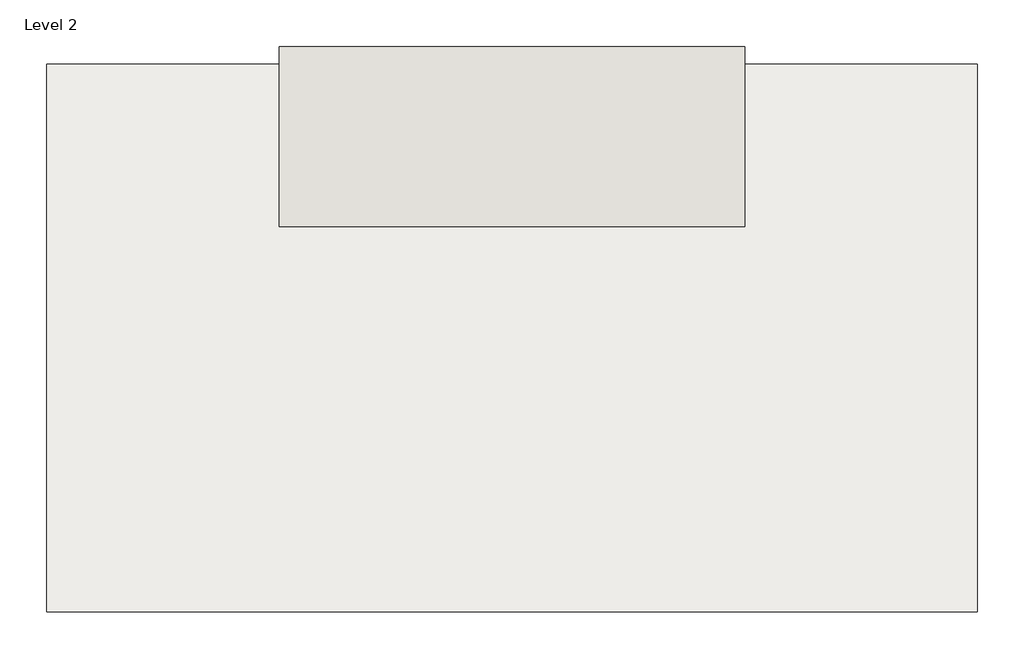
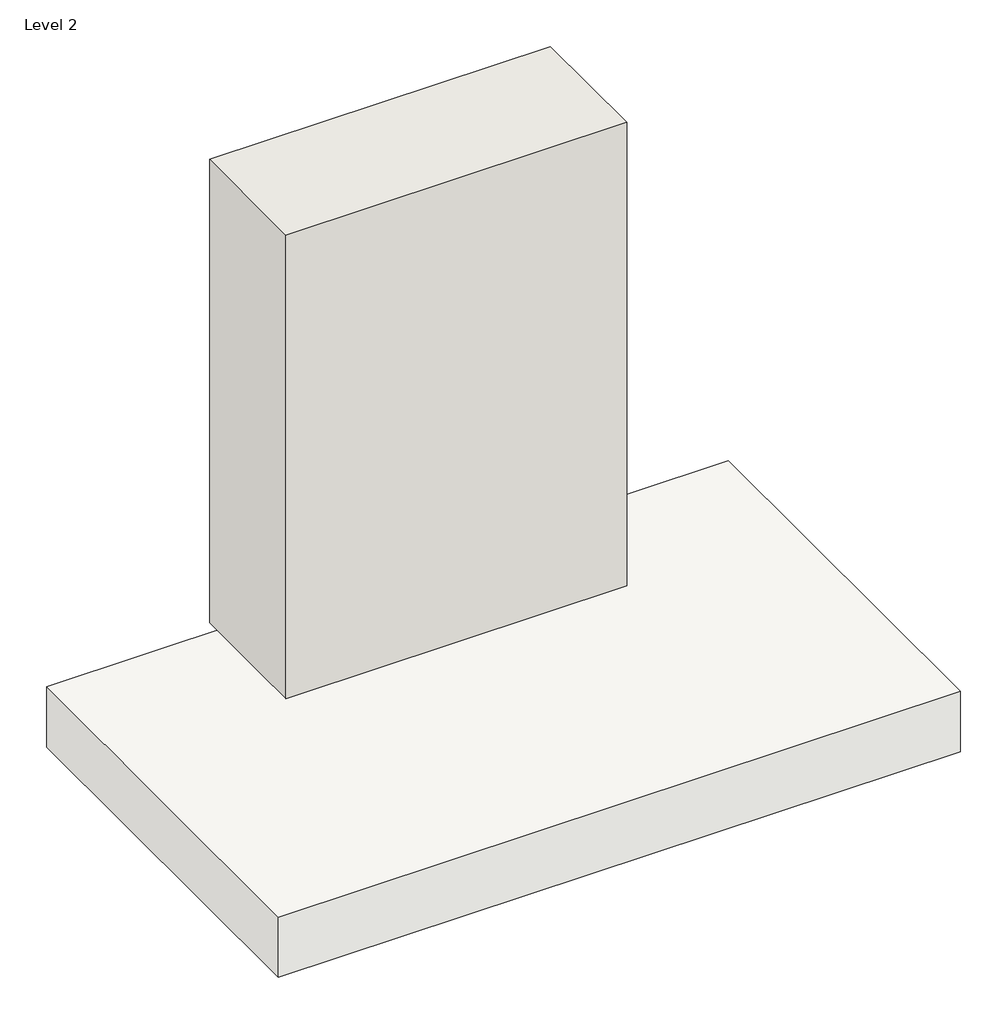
# One storey: 1 slab, 1 wall.
"""IFC4 building model written with IfcOpenShell, lengths in millimetres."""

import ifcopenshell
import ifcopenshell.guid

model = None  # the IFC model being written
_history = None  # IfcOwnerHistory: only IFC2X3 demands one
_inside = {}  # id of a spatial element -> (the spatial element, [elements in it])
_under = {}  # id of a project, library or spatial element -> (it, [spatial elements below it])
_declared = {}  # id of a project -> (the project, [libraries it declares])
_typed = {}  # id of a type object -> (the type object, [elements of that type])
_made_of = {}  # id of a material, layer set ... -> (it, [elements and type objects made of it])


def new_model(schema):
    """Start an empty IFC model of exactly this schema.

    Asked for "IFC4X3", IfcOpenShell would pick the latest addendum, in which some entities
    have other attributes; the version numbers below select the first issue.
    IFC2X3 requires an IfcOwnerHistory on every rooted entity: one is made here for all.
    """
    global model, _history
    if schema == "IFC4X3":
        model = ifcopenshell.file(schema_version=(4, 3, 0, 0))
    else:
        model = ifcopenshell.file(schema=schema)
    _inside.clear()
    _under.clear()
    _declared.clear()
    _typed.clear()
    _made_of.clear()
    _history = None
    if model.schema == "IFC2X3":
        org = make("IfcOrganization", Name="unknown")
        user = make(
            "IfcPersonAndOrganization",
            ThePerson=make("IfcPerson", FamilyName="unknown"),
            TheOrganization=org,
        )
        app = make(
            "IfcApplication",
            ApplicationDeveloper=org,
            Version="unknown",
            ApplicationFullName="unknown",
            ApplicationIdentifier="unknown",
        )
        _history = make(
            "IfcOwnerHistory",
            OwningUser=user,
            OwningApplication=app,
            ChangeAction="ADDED",
            CreationDate=0,
        )
    return model


def make(cls, **values):
    """One entity of the class cls with the attributes given. An attribute that is None is left unset."""
    return model.create_entity(
        cls, **{name: value for name, value in values.items() if value is not None}
    )


def rooted(cls, **values):
    """An entity with a GlobalId (a new one), such as an element, a storey or a relation."""
    return make(cls, GlobalId=ifcopenshell.guid.new(), OwnerHistory=_history, **values)


def si_unit(unit_type, name, prefix=None):
    """IfcSIUnit, for example si_unit("LENGTHUNIT", "METRE", prefix="MILLI")."""
    return make("IfcSIUnit", UnitType=unit_type, Prefix=prefix, Name=name)


def assignment(units):
    """IfcUnitAssignment: the units of a project."""
    return None if units is None else make("IfcUnitAssignment", Units=units)


def point(xyz):
    """IfcCartesianPoint."""
    return None if xyz is None else make("IfcCartesianPoint", Coordinates=xyz)


def direction(xyz):
    """IfcDirection."""
    return None if xyz is None else make("IfcDirection", DirectionRatios=xyz)


def frame(location, z_axis=None, x_axis=None):
    """IfcAxis2Placement3D, a coordinate frame: its origin and axes. An axis left out is left unset."""
    return make(
        "IfcAxis2Placement3D",
        Location=point(location),
        Axis=direction(z_axis),
        RefDirection=direction(x_axis),
    )


def origin():
    """The frame at (0, 0, 0) with its axes left unset."""
    return frame((0.0, 0.0, 0.0))


def place(relative_to, where):
    """IfcLocalPlacement: puts the frame where relative to a parent placement (None: the world)."""
    return make(
        "IfcLocalPlacement", PlacementRelTo=relative_to, RelativePlacement=where
    )


def context(
    kind, dimensions, precision=None, world=None, true_north=None, identifier=None
):
    """IfcGeometricRepresentationContext, for example the 3D "Model" context."""
    return make(
        "IfcGeometricRepresentationContext",
        ContextIdentifier=identifier,
        ContextType=kind,
        CoordinateSpaceDimension=dimensions,
        Precision=precision,
        WorldCoordinateSystem=world,
        TrueNorth=true_north,
    )


def project(units=None, contexts=None):
    """IfcProject with its units and contexts."""
    return rooted(
        "IfcProject",
        Name="project",
        RepresentationContexts=contexts,
        UnitsInContext=assignment(units),
    )


def spatial(cls, under=None, at=None, **own):
    """A site, building, storey or space (cls), placed at a placement, below another one or the project."""
    s = rooted(cls, ObjectPlacement=at, **own)
    if under is not None:
        _under.setdefault(under.id(), (under, []))[1].append(s)
    return s


def polyline(points):
    """IfcPolyline through the points."""
    return make("IfcPolyline", Points=[point(p) for p in points])


def outline(outer, holes=None, kind="AREA"):
    """IfcArbitraryClosedProfileDef: a profile drawn as a closed curve; with holes, ...WithVoids."""
    if holes is None:
        return make("IfcArbitraryClosedProfileDef", ProfileType=kind, OuterCurve=outer)
    return make(
        "IfcArbitraryProfileDefWithVoids",
        ProfileType=kind,
        OuterCurve=outer,
        InnerCurves=holes,
    )


def extrude(swept, where, along, depth):
    """IfcExtrudedAreaSolid: the profile swept, set in the frame where, extruded along a direction by depth."""
    return make(
        "IfcExtrudedAreaSolid",
        SweptArea=swept,
        Position=where,
        ExtrudedDirection=direction(along),
        Depth=depth,
    )


def shape(context_of_items, identifier, shape_type, items):
    """IfcShapeRepresentation: the items that make up one representation, for example the "Body"."""
    return make(
        "IfcShapeRepresentation",
        ContextOfItems=context_of_items,
        RepresentationIdentifier=identifier,
        RepresentationType=shape_type,
        Items=items,
    )


def made_of(thing, what):
    """Note that an element or type object is made of a material, layer set ...; save() writes the relation."""
    if what is not None:
        _made_of.setdefault(what.id(), (what, []))[1].append(thing)
    return thing


def element(
    cls,
    number,
    at=None,
    inside=None,
    cuts=None,
    type_object=None,
    material=None,
    context=None,
    identifier="Body",
    shape_type=None,
    held_by="IfcProductDefinitionShape",
    body=None,
    shapes=None,
    **own,
):
    """One element of the class cls, such as IfcWall. Its Tag is "e" and its number.

    at: its placement. inside: the storey or other place that contains it. cuts: it is an
    opening in that element (IfcRelVoidsElement). A single representation is given by context,
    identifier, shape_type and body (its items); several are given by shapes. held_by: the class
    of the entity that holds the representations. save() writes the other relations.
    """
    e = rooted(cls, Tag="e%d" % number, ObjectPlacement=at, **own)
    if body is not None:
        shapes = [shape(context, identifier, shape_type, body)]
    if shapes is not None:
        e.Representation = make(held_by, Representations=shapes)
    if inside is not None:
        _inside.setdefault(inside.id(), (inside, []))[1].append(e)
    if cuts is not None:
        rooted(
            "IfcRelVoidsElement", RelatingBuildingElement=cuts, RelatedOpeningElement=e
        )
    if type_object is not None:
        _typed.setdefault(type_object.id(), (type_object, []))[1].append(e)
    return made_of(e, material)


def aggregate(whole, parts):
    """IfcRelAggregates: a whole, such as a stair, and the parts it consists of."""
    return rooted("IfcRelAggregates", RelatingObject=whole, RelatedObjects=parts)


def save(model, path):
    """Write the relations noted so far, then the file.

    IfcRelAggregates (storeys below a building ...), IfcRelContainedInSpatialStructure (elements
    in a storey), IfcRelDefinesByType, IfcRelAssociatesMaterial and IfcRelDeclares: one each for
    every whole, place, type object, material and project.
    """
    for whole, parts in _under.values():
        aggregate(whole, parts)
    for where, things in _inside.values():
        rooted(
            "IfcRelContainedInSpatialStructure",
            RelatedElements=things,
            RelatingStructure=where,
        )
    for kind, things in _typed.values():
        rooted("IfcRelDefinesByType", RelatedObjects=things, RelatingType=kind)
    for what, things in _made_of.values():
        rooted("IfcRelAssociatesMaterial", RelatedObjects=things, RelatingMaterial=what)
    for by, libraries in _declared.values():
        rooted("IfcRelDeclares", RelatingContext=by, RelatedDefinitions=libraries)
    model.write(path)


model = new_model("IFC4")

# Units and contexts
model_context = context("Model", 3, world=origin())
ifc_project = project(units=[si_unit("LENGTHUNIT", "METRE", prefix="MILLI")], contexts=[model_context])

# Site, building, storey
site = spatial("IfcSite", under=ifc_project)
building = spatial("IfcBuilding", under=site)
storey = spatial("IfcBuildingStorey", under=building, Name="Level 2", Elevation=4000.0)

# Slab
placement = place(None, origin())
element("IfcSlab", 1, ObjectType="Generic 150mm", at=placement, inside=storey, context=model_context, shape_type="SweptSolid", body=[
    extrude(outline(polyline([(17486.0136184, 14910.8863455), (19086.0136184, 14910.8863455), (19086.0136184, 13968.3863455), (17486.0136184, 13968.3863455), (17486.0136184, 14910.8863455)])), frame((0.0, 0.0, 2000.0), z_axis=(0.0, 0.0, 1.0), x_axis=(1.0, 0.0, 0.0)), (0.0, 0.0, 1.0), 150.0),
])

# Wall
element("IfcWall", 2, ObjectType="Wall structure", at=placement, inside=storey, context=model_context, shape_type="SweptSolid", body=[
    extrude(outline(polyline([(18686.0136184, 14630.8863455), (17886.0136184, 14630.8863455), (17886.0136184, 14940.8863455), (18686.0136184, 14940.8863455), (18686.0136184, 14630.8863455)])), frame((0.0, 0.0, 2150.0), z_axis=(0.0, 0.0, 1.0), x_axis=(1.0, 0.0, 0.0)), (0.0, 0.0, 1.0), 1150.0),
])

save(model, "model.ifc")
